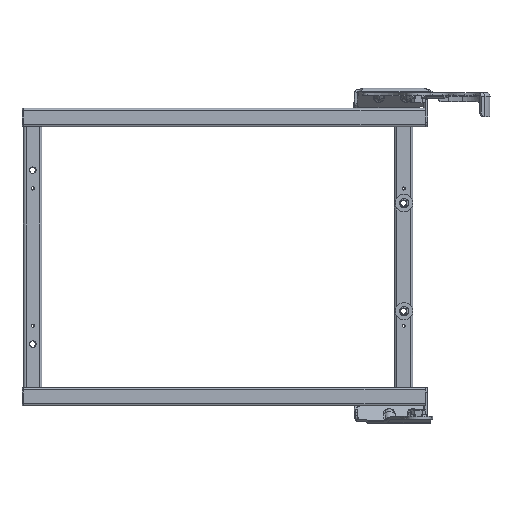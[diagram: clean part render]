
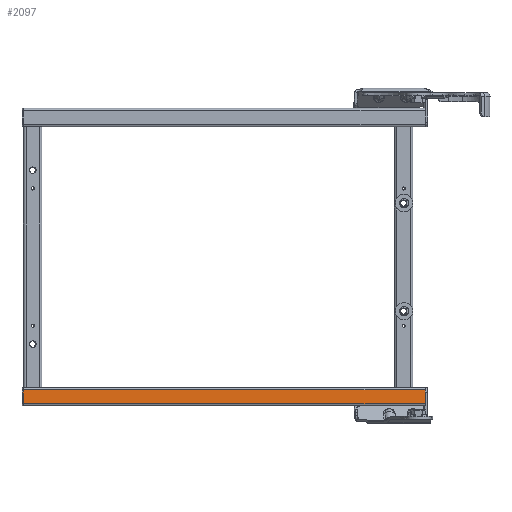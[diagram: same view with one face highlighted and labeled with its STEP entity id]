
A CAD part, top view. The second image highlights one B-rep face of the part: STEP entity #2097.
In plain terms, the highlighted planar face has unit normal (0.071, 0, 0.998).
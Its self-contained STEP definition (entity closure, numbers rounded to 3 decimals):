
#2070=AXIS2_PLACEMENT_3D('Plane Axis2P3D',#2067,#2068,#2069) ;
#2045=CARTESIAN_POINT('Vertex',(-65.524,564.,308.416)) ;
#2048=CARTESIAN_POINT('Line Origine',(-284.967,564.,324.061)) ;
#2052=CARTESIAN_POINT('Vertex',(-504.41,564.,339.707)) ;
#2067=CARTESIAN_POINT('Axis2P3D Location',(-65.524,564.,308.416)) ;
#2072=CARTESIAN_POINT('Line Origine',(-284.967,579.,324.061)) ;
#2076=CARTESIAN_POINT('Vertex',(-65.524,579.,308.416)) ;
#2078=CARTESIAN_POINT('Vertex',(-504.41,579.,339.707)) ;
#2081=CARTESIAN_POINT('Line Origine',(-504.41,571.5,339.707)) ;
#2086=CARTESIAN_POINT('Line Origine',(-65.524,571.5,308.416)) ;
#2049=DIRECTION('Vector Direction',(-0.997,0.,0.071)) ;
#2068=DIRECTION('Axis2P3D Direction',(0.071,0.,0.997)) ;
#2069=DIRECTION('Axis2P3D XDirection',(0.,1.,0.)) ;
#2073=DIRECTION('Vector Direction',(-0.997,0.,0.071)) ;
#2082=DIRECTION('Vector Direction',(0.,-1.,0.)) ;
#2087=DIRECTION('Vector Direction',(0.,-1.,0.)) ;
#2050=VECTOR('Line Direction',#2049,1.) ;
#2074=VECTOR('Line Direction',#2073,1.) ;
#2083=VECTOR('Line Direction',#2082,1.) ;
#2088=VECTOR('Line Direction',#2087,1.) ;
#2092=ORIENTED_EDGE('',*,*,#2080,.T.) ;
#2093=ORIENTED_EDGE('',*,*,#2085,.T.) ;
#2094=ORIENTED_EDGE('',*,*,#2054,.F.) ;
#2095=ORIENTED_EDGE('',*,*,#2090,.F.) ;
#2097=ADVANCED_FACE('H4681020061A0.1\\H4 \X2\53477EA7526F9A7E\X0\.1\\H4 \X2\53477EA7526F9A7E\X0\_AllCATPart.1\\Product1.1\\H4681021100A0.1\\\X2\521D59CB4F4D7F6E\X0\\\H4681020060A0.2.2\\H4681020065A0.1\\\X2\96F64EF651E04F554F53\X0\',(#2096),#2071,.T.) ;
#2054=EDGE_CURVE('',#2046,#2053,#2051,.T.) ;
#2080=EDGE_CURVE('',#2077,#2079,#2075,.T.) ;
#2085=EDGE_CURVE('',#2079,#2053,#2084,.T.) ;
#2090=EDGE_CURVE('',#2077,#2046,#2089,.T.) ;
#2091=EDGE_LOOP('',(#2092,#2093,#2094,#2095)) ;
#2096=FACE_OUTER_BOUND('',#2091,.T.) ;
#2051=LINE('Line',#2048,#2050) ;
#2075=LINE('Line',#2072,#2074) ;
#2084=LINE('Line',#2081,#2083) ;
#2089=LINE('Line',#2086,#2088) ;
#2071=PLANE('Plane',#2070) ;
#2046=VERTEX_POINT('',#2045) ;
#2053=VERTEX_POINT('',#2052) ;
#2077=VERTEX_POINT('',#2076) ;
#2079=VERTEX_POINT('',#2078) ;
